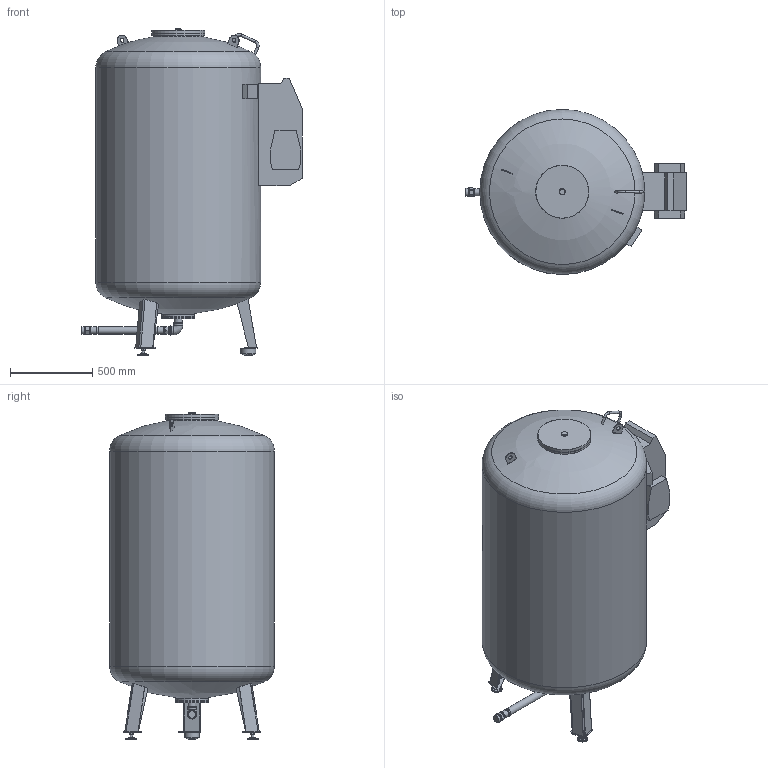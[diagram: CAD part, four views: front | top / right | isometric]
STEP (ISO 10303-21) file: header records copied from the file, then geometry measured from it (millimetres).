
FILE_DESCRIPTION(/* description */ (''),/* implementation_level */ '2;1');
FILE_NAME(/* name */ '\\DATASERVER\data\Flamco\3D-Modellen\Inventor\Flamcomat\2021_Flamcomat MK-U G4\flamcomat_mk-u_g4_1200_6.stp',/* time_stamp */ '2021-11-29T10:48:10+01:00',/* author */ ('kasius'),/* organization */ (''),/* preprocessor_version */ 'ST-DEVELOPER v17',/* originating_system */ 'Autodesk Inventor 2018',/* authorisation */ '');
FILE_SCHEMA (('AUTOMOTIVE_DESIGN { 1 0 10303 214 3 1 1 }'));
Length unit declared in the file: millimetre
Products named in the file (1): flamcomat_mk-u_g4_1200l
Bounding box: 1338.24 x 1000 x 1980.5 mm (x, y, z)
Volume: 1271787503.3 mm3; surface area: 7271708.1 mm2
Topology: 5 solids, 5 shells, 323 faces, 860 edges, 582 vertices
Faces by surface type: plane 172, cylinder 72, cone 71, torus 5, sphere 2, bspline 1
Full cylindrical faces by diameter (mm): 15 x3, 16 x2, 20 x2, 24 x2, 33 x2, 38.75 x1, 41.7 x2, 43 x2, 46.1 x1, 47.5 x4, 48 x2, 48.3 x1, 53.6 x2, 55 x2, 65 x2, 90 x1, 162 x1, 198 x2, 279.133 x1, 322 x2, 1000 x1
Entity records: 10497 total; most frequent: CARTESIAN_POINT 2023, DIRECTION 1783, ORIENTED_EDGE 1720, EDGE_CURVE 860, AXIS2_PLACEMENT_3D 679, VERTEX_POINT 582, LINE 425, VECTOR 425
